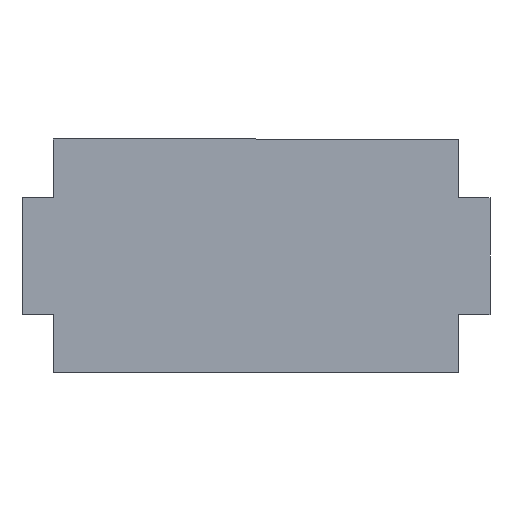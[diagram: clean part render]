
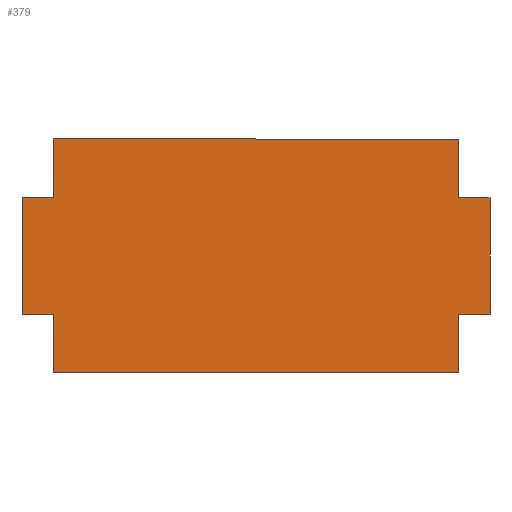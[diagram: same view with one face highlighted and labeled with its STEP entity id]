
A CAD part, front view. The second image highlights one B-rep face of the part: STEP entity #379.
In plain terms, the highlighted planar face has unit normal (0, -1, 0).
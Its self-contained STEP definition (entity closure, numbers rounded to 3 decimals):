
#7 = CARTESIAN_POINT ( 'NONE',  ( 26., 0., 15. ) ) ;
#17 = CARTESIAN_POINT ( 'NONE',  ( -26., 0., -15. ) ) ;
#21 = EDGE_CURVE ( 'NONE', #253, #71, #155, .T. ) ;
#22 = DIRECTION ( 'NONE',  ( 0., 0., 1. ) ) ;
#25 = ORIENTED_EDGE ( 'NONE', *, *, #287, .F. ) ;
#43 = LINE ( 'NONE', #385, #213 ) ;
#49 = CARTESIAN_POINT ( 'NONE',  ( 26., 0., -15. ) ) ;
#50 = CARTESIAN_POINT ( 'NONE',  ( 30., 0., 7.5 ) ) ;
#54 = ORIENTED_EDGE ( 'NONE', *, *, #21, .F. ) ;
#68 = EDGE_CURVE ( 'NONE', #263, #253, #429, .T. ) ;
#71 = VERTEX_POINT ( 'NONE', #352 ) ;
#72 = VERTEX_POINT ( 'NONE', #284 ) ;
#74 = CARTESIAN_POINT ( 'NONE',  ( 0., 0., 0. ) ) ;
#75 = LINE ( 'NONE', #497, #224 ) ;
#77 = EDGE_CURVE ( 'NONE', #215, #148, #75, .T. ) ;
#78 = DIRECTION ( 'NONE',  ( 0., 0., -1. ) ) ;
#90 = CARTESIAN_POINT ( 'NONE',  ( -26., 0., -7.5 ) ) ;
#93 = DIRECTION ( 'NONE',  ( 0., 0., -1. ) ) ;
#107 = VECTOR ( 'NONE', #498, 1000. ) ;
#109 = VERTEX_POINT ( 'NONE', #320 ) ;
#115 = CARTESIAN_POINT ( 'NONE',  ( -30., 0., 7.5 ) ) ;
#119 = LINE ( 'NONE', #50, #446 ) ;
#122 = VECTOR ( 'NONE', #93, 1000. ) ;
#127 = LINE ( 'NONE', #367, #450 ) ;
#128 = EDGE_CURVE ( 'NONE', #380, #72, #358, .T. ) ;
#138 = VERTEX_POINT ( 'NONE', #17 ) ;
#148 = VERTEX_POINT ( 'NONE', #402 ) ;
#155 = LINE ( 'NONE', #115, #279 ) ;
#159 = CARTESIAN_POINT ( 'NONE',  ( -30., 0., -7.5 ) ) ;
#161 = VECTOR ( 'NONE', #461, 1000. ) ;
#167 = VERTEX_POINT ( 'NONE', #327 ) ;
#182 = ORIENTED_EDGE ( 'NONE', *, *, #486, .F. ) ;
#188 = ORIENTED_EDGE ( 'NONE', *, *, #204, .F. ) ;
#189 = DIRECTION ( 'NONE',  ( 0., 0., 1. ) ) ;
#191 = CARTESIAN_POINT ( 'NONE',  ( 30., 0., -7.5 ) ) ;
#200 = CARTESIAN_POINT ( 'NONE',  ( 30., 0., -7.5 ) ) ;
#204 = EDGE_CURVE ( 'NONE', #71, #167, #127, .T. ) ;
#213 = VECTOR ( 'NONE', #189, 1000. ) ;
#214 = LINE ( 'NONE', #476, #122 ) ;
#215 = VERTEX_POINT ( 'NONE', #7 ) ;
#224 = VECTOR ( 'NONE', #78, 1000. ) ;
#228 = ORIENTED_EDGE ( 'NONE', *, *, #411, .F. ) ;
#235 = DIRECTION ( 'NONE',  ( 0., 1., 0. ) ) ;
#237 = LINE ( 'NONE', #353, #107 ) ;
#247 = VECTOR ( 'NONE', #499, 1000. ) ;
#249 = DIRECTION ( 'NONE',  ( 1., 0., 0. ) ) ;
#250 = CARTESIAN_POINT ( 'NONE',  ( -30., 0., -7.5 ) ) ;
#251 = EDGE_CURVE ( 'NONE', #72, #395, #214, .T. ) ;
#253 = VERTEX_POINT ( 'NONE', #250 ) ;
#261 = EDGE_LOOP ( 'NONE', ( #492, #25, #269, #423, #378, #182, #306, #270, #228, #188, #54, #310 ) ) ;
#263 = VERTEX_POINT ( 'NONE', #90 ) ;
#269 = ORIENTED_EDGE ( 'NONE', *, *, #251, .F. ) ;
#270 = ORIENTED_EDGE ( 'NONE', *, *, #455, .F. ) ;
#273 = PLANE ( 'NONE',  #366 ) ;
#278 = DIRECTION ( 'NONE',  ( 1., 0., 0. ) ) ;
#279 = VECTOR ( 'NONE', #348, 1000. ) ;
#284 = CARTESIAN_POINT ( 'NONE',  ( 26., 0., -7.5 ) ) ;
#287 = EDGE_CURVE ( 'NONE', #395, #138, #360, .T. ) ;
#292 = DIRECTION ( 'NONE',  ( 1., 0., 0. ) ) ;
#293 = VERTEX_POINT ( 'NONE', #438 ) ;
#306 = ORIENTED_EDGE ( 'NONE', *, *, #77, .F. ) ;
#310 = ORIENTED_EDGE ( 'NONE', *, *, #68, .F. ) ;
#311 = LINE ( 'NONE', #501, #420 ) ;
#319 = CARTESIAN_POINT ( 'NONE',  ( 30., 0., 7.5 ) ) ;
#320 = CARTESIAN_POINT ( 'NONE',  ( -26., 0., 15. ) ) ;
#321 = DIRECTION ( 'NONE',  ( -1., 0., 0. ) ) ;
#327 = CARTESIAN_POINT ( 'NONE',  ( -26., 0., 7.5 ) ) ;
#348 = DIRECTION ( 'NONE',  ( 0., 0., 1. ) ) ;
#352 = CARTESIAN_POINT ( 'NONE',  ( -30., 0., 7.5 ) ) ;
#353 = CARTESIAN_POINT ( 'NONE',  ( -26., 0., -7.5 ) ) ;
#358 = LINE ( 'NONE', #200, #488 ) ;
#360 = LINE ( 'NONE', #49, #376 ) ;
#366 = AXIS2_PLACEMENT_3D ( 'NONE', #74, #235, #22 ) ;
#367 = CARTESIAN_POINT ( 'NONE',  ( -30., 0., 7.5 ) ) ;
#376 = VECTOR ( 'NONE', #471, 1000. ) ;
#378 = ORIENTED_EDGE ( 'NONE', *, *, #424, .F. ) ;
#379 = ADVANCED_FACE ( 'NONE', ( #491 ), #273, .F. ) ;
#380 = VERTEX_POINT ( 'NONE', #191 ) ;
#385 = CARTESIAN_POINT ( 'NONE',  ( -26., 0., 15. ) ) ;
#389 = CARTESIAN_POINT ( 'NONE',  ( 26., 0., -15. ) ) ;
#395 = VERTEX_POINT ( 'NONE', #389 ) ;
#402 = CARTESIAN_POINT ( 'NONE',  ( 26., 0., 7.5 ) ) ;
#411 = EDGE_CURVE ( 'NONE', #167, #109, #43, .T. ) ;
#420 = VECTOR ( 'NONE', #249, 1000. ) ;
#422 = LINE ( 'NONE', #319, #161 ) ;
#423 = ORIENTED_EDGE ( 'NONE', *, *, #128, .F. ) ;
#424 = EDGE_CURVE ( 'NONE', #293, #380, #422, .T. ) ;
#429 = LINE ( 'NONE', #159, #247 ) ;
#432 = EDGE_CURVE ( 'NONE', #138, #263, #237, .T. ) ;
#438 = CARTESIAN_POINT ( 'NONE',  ( 30., 0., 7.5 ) ) ;
#446 = VECTOR ( 'NONE', #278, 1000. ) ;
#450 = VECTOR ( 'NONE', #292, 1000. ) ;
#455 = EDGE_CURVE ( 'NONE', #109, #215, #311, .T. ) ;
#461 = DIRECTION ( 'NONE',  ( 0., 0., -1. ) ) ;
#471 = DIRECTION ( 'NONE',  ( -1., 0., 0. ) ) ;
#476 = CARTESIAN_POINT ( 'NONE',  ( 26., 0., -7.5 ) ) ;
#486 = EDGE_CURVE ( 'NONE', #148, #293, #119, .T. ) ;
#488 = VECTOR ( 'NONE', #321, 1000. ) ;
#491 = FACE_OUTER_BOUND ( 'NONE', #261, .T. ) ;
#492 = ORIENTED_EDGE ( 'NONE', *, *, #432, .F. ) ;
#497 = CARTESIAN_POINT ( 'NONE',  ( 26., 0., 15. ) ) ;
#498 = DIRECTION ( 'NONE',  ( 0., 0., 1. ) ) ;
#499 = DIRECTION ( 'NONE',  ( -1., 0., 0. ) ) ;
#501 = CARTESIAN_POINT ( 'NONE',  ( 26., 0., 15. ) ) ;
